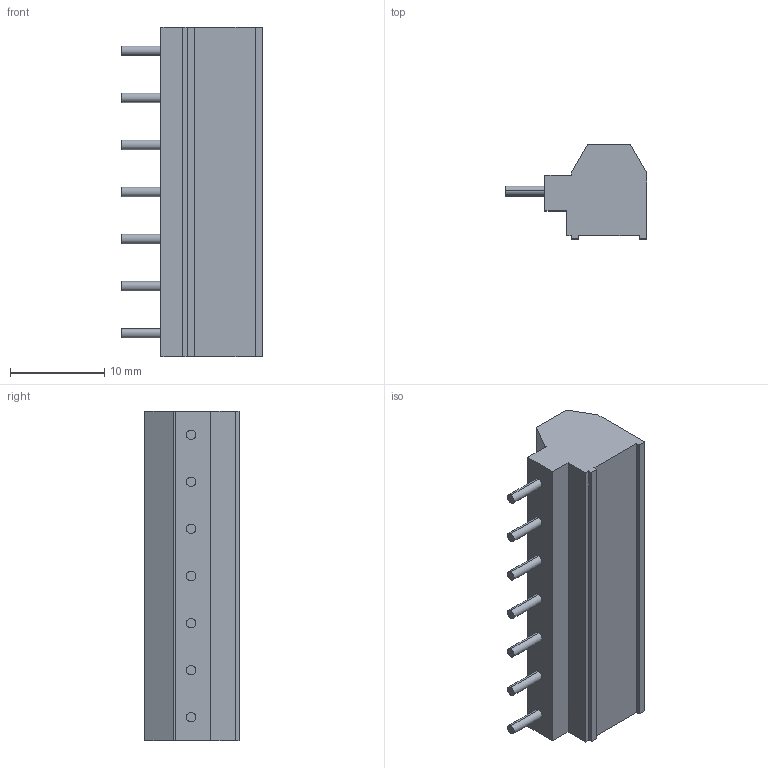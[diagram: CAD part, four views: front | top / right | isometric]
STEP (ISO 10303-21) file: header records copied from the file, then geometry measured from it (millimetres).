
FILE_DESCRIPTION (( 'STEP AP214' ), '1' );
FILE_NAME ('951-LH-DS-07.STEP', '2008-01-22T06:14:41', ( ' ' ), ( '' ), 'SwSTEP 2.0', 'SolidWorks 2007', '' );
FILE_SCHEMA (( 'AUTOMOTIVE_DESIGN' ));
Length unit declared in the file: millimetre
Products named in the file (1): 951-LH-DS-07
Bounding box: 15 x 10 x 35 mm (x, y, z)
Volume: 2613.3 mm3; surface area: 2313.8 mm2
Topology: 1 solids, 1 shells, 487 faces, 1532 edges, 1019 vertices
Faces by surface type: plane 312, cylinder 105, bspline 42, cone 28
Entity records: 18691 total; most frequent: CARTESIAN_POINT 5265, ORIENTED_EDGE 3064, DIRECTION 2564, EDGE_CURVE 1532, VERTEX_POINT 1019, LINE 860, VECTOR 860, AXIS2_PLACEMENT_3D 852
